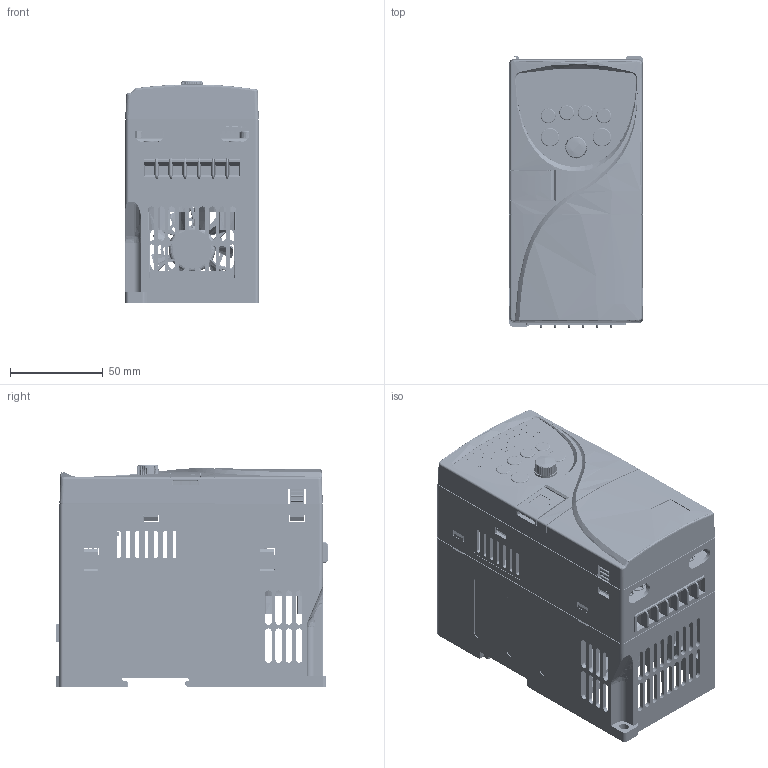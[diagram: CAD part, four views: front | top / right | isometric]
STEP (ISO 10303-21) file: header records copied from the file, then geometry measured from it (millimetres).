
FILE_DESCRIPTION (( 'STEP AP203' ), '1' );
FILE_NAME ('Ïðåîáðàçîâàòåëü ÷àñòîòû _ INVENT-G3.0-4.STEP', '2025-07-22T08:40:25', ( '' ), ( '' ), 'SwSTEP 2.0', 'SolidWorks 2021', '' );
FILE_SCHEMA (( 'CONFIG_CONTROL_DESIGN' ));
Length unit declared in the file: millimetre
Products named in the file (43): Îñíîâà ïëàòû óïðàâëåíèÿ; RJ45-8; EU5-07-7.62-00_2; Äíèùå 1; 扻豵鵨 蚝; WH09-103-15; Äèñïëåé; 羊铋赅 󉱮7; Êîííåêòîð 22PL EEX 2x11x2.54x27; 26PL; EU5-07-7.62-00_3; RL508-15A-2P; Êðûøêà êîðïóñà; RL508-15A-8P; EU5-07-7.62-00_4; ﾇ琥韲 4x4.8x10_1; Ïëàòà ñèëîâàÿ; Ïëàòà óïðàâëåíèÿ; RL508-15A-3P; EU5-07-7.62-00_1; Êðûøêà âåíòèëÿòîðà; Êðûøêà êëåìì óïðàâëåíèÿ; 6x6x83; EU5-07-7.62-00_6; Îñíîâà ïëàòû ñèëîâîé; Ëèöåâàÿ ïàíåëü; ч蜱齁罻 RJ45; EU5-07-7.62-00; Jumper; 抔樦憵 4x4.8x19; ﾇ琥韲 4x4.8x19; Ðåãóëÿòîð; Êîíòàêò 4x4.8x10; HF46F; Âåíòèëÿòîð 50õ50õ15; Ïàíåëü ñ êíîïêàìè; Êîíòàêò 4x4.8x19_1; Ïðåîáðàçîâàòåëü ÷àñòîòû _ INVENT-G3.0-4; 抔樦憵 4x4.8x10; EU5-07-7.62-00_5
Assembly tree (59 placements, depth 6):
  Ïðåîáðàçîâàòåëü ÷àñòîòû _ INVENT-G3.0-4
    Äíèùå 1
    Âåíòèëÿòîð 50õ50õ15
    Êðûøêà âåíòèëÿòîðà
    Ïëàòà ñèëîâàÿ
      Îñíîâà ïëàòû ñèëîâîé
      EU5-07-7.62-00
        EU5-07-7.62-00_3
        EU5-07-7.62-00
        EU5-07-7.62-00_2
        EU5-07-7.62-00_4
        EU5-07-7.62-00_1
        EU5-07-7.62-00_6
        EU5-07-7.62-00_5
      Êîííåêòîð 22PL EEX 2x11x2.54x27
    羊铋赅 󉱮7
    扻豵鵨 蚝
    Ïëàòà óïðàâëåíèÿ
      Îñíîâà ïëàòû óïðàâëåíèÿ
      RL508-15A-8P
        RL508-15A-3P  x2
          RL508-15A-3P
          抔樦憵 4x4.8x10
            ﾇ琥韲 4x4.8x10_1
            Êîíòàêò 4x4.8x10
          抔樦憵 4x4.8x19
            ﾇ琥韲 4x4.8x19
            Êîíòàêò 4x4.8x19_1
        RL508-15A-2P
          RL508-15A-2P
          抔樦憵 4x4.8x10  x2
            ﾇ琥韲 4x4.8x10_1
            Êîíòàêò 4x4.8x10
          抔樦憵 4x4.8x19  x2
            ﾇ琥韲 4x4.8x19
            Êîíòàêò 4x4.8x19_1
      WH09-103-15
      RJ45-8
      26PL
      Äèñïëåé
      Jumper  x4
      HF46F
      6x6x83  x6
    Ëèöåâàÿ ïàíåëü
      Êðûøêà êîðïóñà
      Êðûøêà êëåìì óïðàâëåíèÿ
      Ïàíåëü ñ êíîïêàìè
      ч蜱齁罻 RJ45
      Ðåãóëÿòîð
Bounding box: 72.01 x 147 x 120.08 mm (x, y, z)
Volume: 226401.4 mm3; surface area: 292798.2 mm2
Topology: 69 solids, 80 shells, 9504 faces, 25688 edges, 16753 vertices
Faces by surface type: plane 6718, cylinder 1857, bspline 474, cone 279, torus 162, sphere 14
Entity records: 243854 total; most frequent: CARTESIAN_POINT 61728, ORIENTED_EDGE 38378, DIRECTION 34307, EDGE_CURVE 19191, VECTOR 14193, LINE 14193, VERTEX_POINT 12504, AXIS2_PLACEMENT_3D 10057
